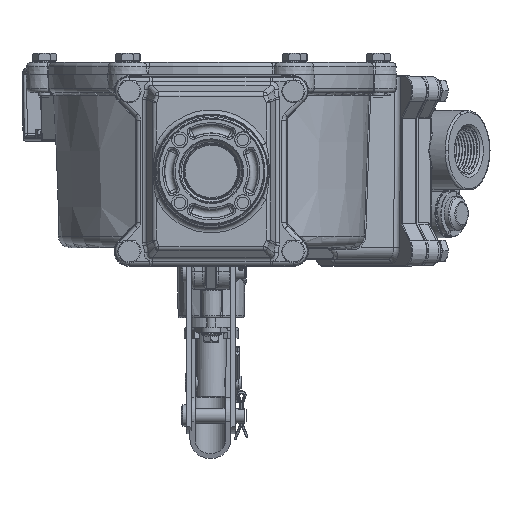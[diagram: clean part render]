
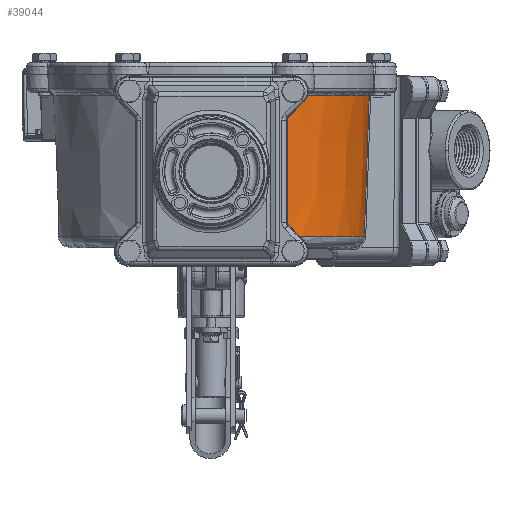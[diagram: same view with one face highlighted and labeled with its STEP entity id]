
A CAD part, front view. The second image highlights one B-rep face of the part: STEP entity #39044.
In plain terms, the highlighted conical face has half-angle 2 degrees and reference radius 80.454 mm.
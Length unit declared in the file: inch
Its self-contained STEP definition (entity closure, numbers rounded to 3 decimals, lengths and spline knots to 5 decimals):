
#2484=CIRCLE('',#42310,3.27768);
#2485=CIRCLE('',#42311,3.17593);
#3894=CONICAL_SURFACE('',#42309,3.1675,0.035);
#11456=FACE_OUTER_BOUND('',#13935,.T.);
#13935=EDGE_LOOP('',(#30800,#30801,#30802,#30803));
#16088=B_SPLINE_CURVE_WITH_KNOTS('',3,(#76418,#76419,#76420,#76421),
 .UNSPECIFIED.,.F.,.F.,(4,4),(-8.63288,-1.22726),
 .UNSPECIFIED.);
#16089=B_SPLINE_CURVE_WITH_KNOTS('',3,(#76424,#76425,#76426,#76427),
 .UNSPECIFIED.,.F.,.F.,(4,4),(-7.40562,0.),.UNSPECIFIED.);
#18426=VERTEX_POINT('',#76414);
#18427=VERTEX_POINT('',#76415);
#18428=VERTEX_POINT('',#76417);
#18429=VERTEX_POINT('',#76422);
#22838=EDGE_CURVE('',#18426,#18427,#2484,.T.);
#22839=EDGE_CURVE('',#18428,#18426,#16088,.T.);
#22840=EDGE_CURVE('',#18429,#18428,#2485,.T.);
#22841=EDGE_CURVE('',#18427,#18429,#16089,.T.);
#30800=ORIENTED_EDGE('',*,*,#22838,.F.);
#30801=ORIENTED_EDGE('',*,*,#22839,.F.);
#30802=ORIENTED_EDGE('',*,*,#22840,.F.);
#30803=ORIENTED_EDGE('',*,*,#22841,.F.);
#39044=ADVANCED_FACE('',(#11456),#3894,.T.);
#42309=AXIS2_PLACEMENT_3D('',#76413,#49587,#49588);
#42310=AXIS2_PLACEMENT_3D('',#76416,#49589,#49590);
#42311=AXIS2_PLACEMENT_3D('',#76423,#49591,#49592);
#49587=DIRECTION('center_axis',(0.,0.,
1.));
#49588=DIRECTION('ref_axis',(0.866,-0.501,0.));
#49589=DIRECTION('center_axis',(0.,0.,
1.));
#49590=DIRECTION('ref_axis',(0.866,-0.501,0.));
#49591=DIRECTION('center_axis',(0.,0.,
-1.));
#49592=DIRECTION('ref_axis',(0.866,-0.501,0.));
#76413=CARTESIAN_POINT('Origin',(0.,0.,
0.));
#76414=CARTESIAN_POINT('',(1.49225,-2.91828,3.15509));
#76415=CARTESIAN_POINT('',(3.27366,0.16218,3.15509));
#76416=CARTESIAN_POINT('Origin',(0.,0.,
3.15509));
#76417=CARTESIAN_POINT('',(1.44147,-2.82996,0.24128));
#76418=CARTESIAN_POINT('Ctrl Pts',(1.44147,-2.82996,0.24128));
#76419=CARTESIAN_POINT('Ctrl Pts',(1.45839,-2.8594,1.21255));
#76420=CARTESIAN_POINT('Ctrl Pts',(1.47532,-2.88884,2.18382));
#76421=CARTESIAN_POINT('Ctrl Pts',(1.49225,-2.91828,3.15509));
#76422=CARTESIAN_POINT('',(3.17179,0.162,0.24128));
#76423=CARTESIAN_POINT('Origin',(0.,0.,
0.24128));
#76424=CARTESIAN_POINT('Ctrl Pts',(3.27366,0.16218,3.15509));
#76425=CARTESIAN_POINT('Ctrl Pts',(3.23971,0.16213,2.18382));
#76426=CARTESIAN_POINT('Ctrl Pts',(3.20575,0.16206,1.21255));
#76427=CARTESIAN_POINT('Ctrl Pts',(3.17179,0.162,0.24128));
